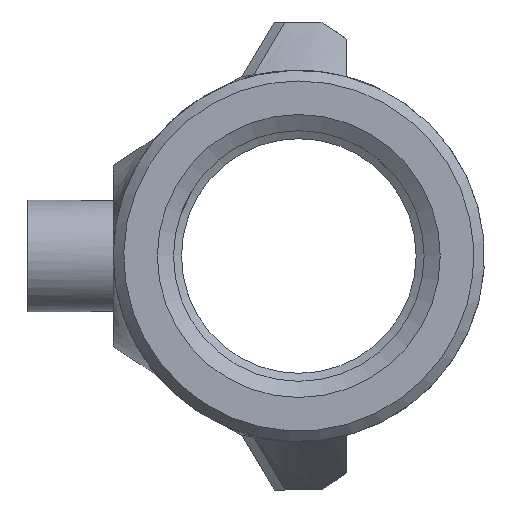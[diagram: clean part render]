
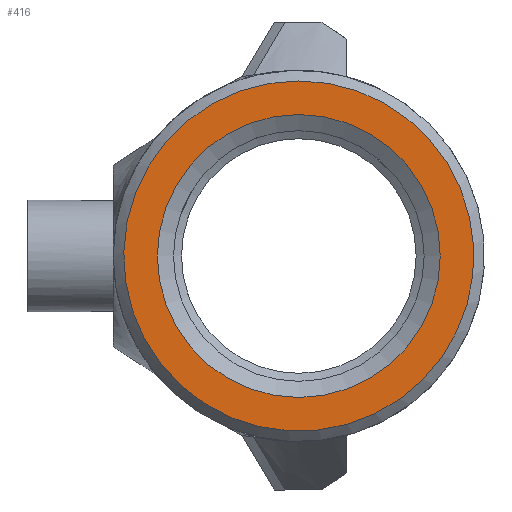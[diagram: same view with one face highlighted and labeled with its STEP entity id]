
A CAD part, left-side view. The second image highlights one B-rep face of the part: STEP entity #416.
In plain terms, the highlighted planar face has unit normal (-1, 0, 0).
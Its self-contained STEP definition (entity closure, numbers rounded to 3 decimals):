
#87=PLANE('',#2052);
#416=ADVANCED_FACE('',(#739,#740),#87,.F.);
#739=FACE_BOUND('',#798,.T.);
#740=FACE_BOUND('',#799,.T.);
#798=EDGE_LOOP('',(#1088));
#799=EDGE_LOOP('',(#1089));
#1088=ORIENTED_EDGE('',*,*,#1837,.F.);
#1089=ORIENTED_EDGE('',*,*,#1834,.T.);
#1626=VERTEX_POINT('',#3475);
#1627=VERTEX_POINT('',#3486);
#1834=EDGE_CURVE('',#1626,#1626,#1985,.T.);
#1837=EDGE_CURVE('',#1627,#1627,#1986,.T.);
#1985=CIRCLE('',#2049,9.788);
#1986=CIRCLE('',#2051,7.908);
#2049=AXIS2_PLACEMENT_3D('',#3474,#2258,#2259);
#2051=AXIS2_PLACEMENT_3D('',#3485,#2262,#2263);
#2052=AXIS2_PLACEMENT_3D('',#3487,#2264,#2265);
#2258=DIRECTION('',(-1.,0.,0.));
#2259=DIRECTION('',(0.,0.,1.));
#2262=DIRECTION('',(-1.,0.,0.));
#2263=DIRECTION('',(0.,0.,1.));
#2264=DIRECTION('',(1.,0.,0.));
#2265=DIRECTION('',(0.,0.,-1.));
#3474=CARTESIAN_POINT('',(0.,0.,0.));
#3475=CARTESIAN_POINT('',(0.,0.,9.788));
#3485=CARTESIAN_POINT('',(0.,0.,0.));
#3486=CARTESIAN_POINT('',(0.,0.,7.908));
#3487=CARTESIAN_POINT('',(0.,9.788,0.));
